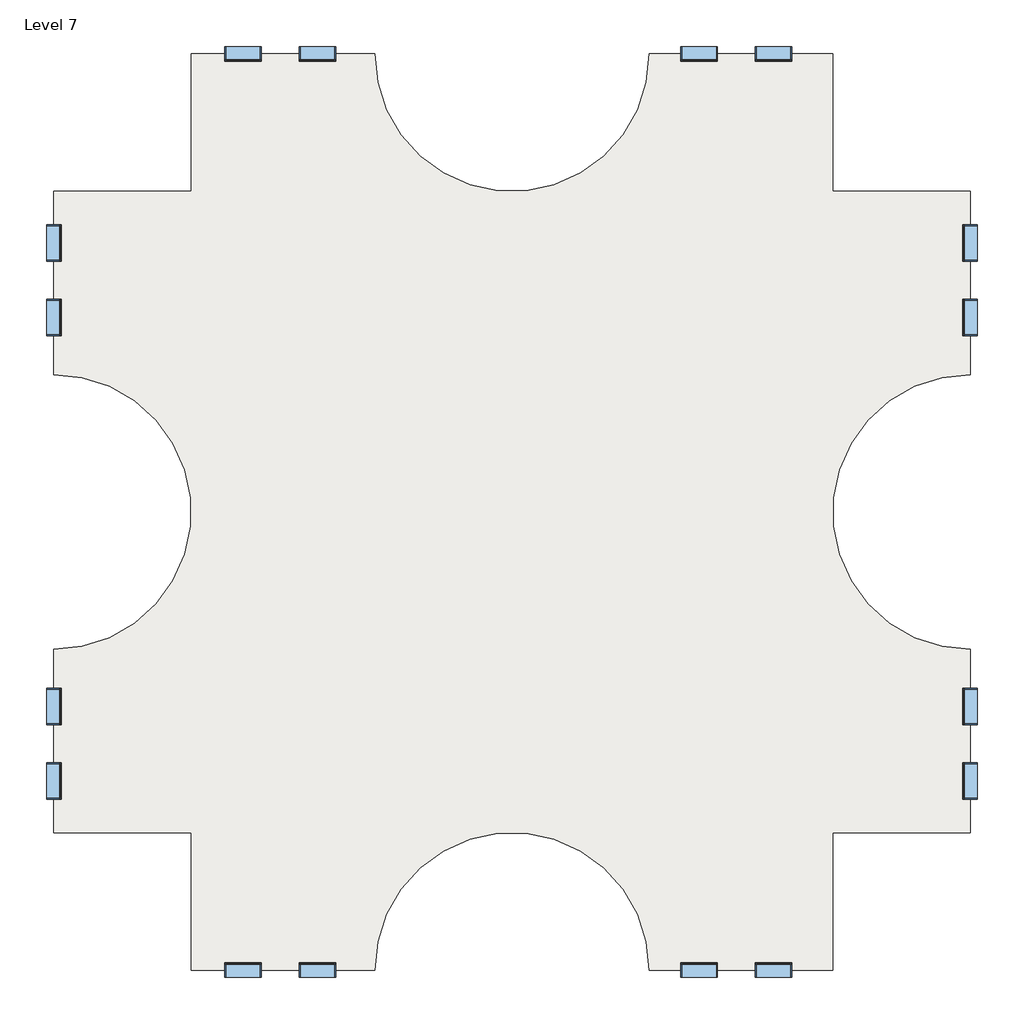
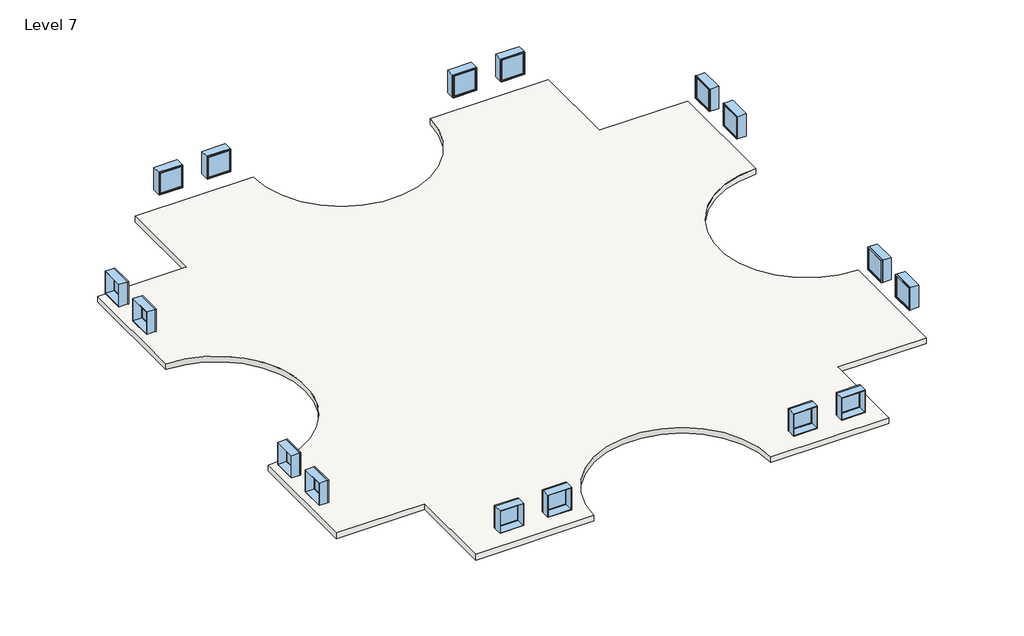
# One storey: 16 windows, 2 slabs.
"""IFC4 building model written with IfcOpenShell, lengths in millimetres."""

import ifcopenshell
import ifcopenshell.guid

model = None  # the IFC model being written
_history = None  # IfcOwnerHistory: only IFC2X3 demands one
_inside = {}  # id of a spatial element -> (the spatial element, [elements in it])
_under = {}  # id of a project, library or spatial element -> (it, [spatial elements below it])
_declared = {}  # id of a project -> (the project, [libraries it declares])
_typed = {}  # id of a type object -> (the type object, [elements of that type])
_made_of = {}  # id of a material, layer set ... -> (it, [elements and type objects made of it])


def new_model(schema):
    """Start an empty IFC model of exactly this schema.

    Asked for "IFC4X3", IfcOpenShell would pick the latest addendum, in which some entities
    have other attributes; the version numbers below select the first issue.
    IFC2X3 requires an IfcOwnerHistory on every rooted entity: one is made here for all.
    """
    global model, _history
    if schema == "IFC4X3":
        model = ifcopenshell.file(schema_version=(4, 3, 0, 0))
    else:
        model = ifcopenshell.file(schema=schema)
    _inside.clear()
    _under.clear()
    _declared.clear()
    _typed.clear()
    _made_of.clear()
    _history = None
    if model.schema == "IFC2X3":
        org = make("IfcOrganization", Name="unknown")
        user = make(
            "IfcPersonAndOrganization",
            ThePerson=make("IfcPerson", FamilyName="unknown"),
            TheOrganization=org,
        )
        app = make(
            "IfcApplication",
            ApplicationDeveloper=org,
            Version="unknown",
            ApplicationFullName="unknown",
            ApplicationIdentifier="unknown",
        )
        _history = make(
            "IfcOwnerHistory",
            OwningUser=user,
            OwningApplication=app,
            ChangeAction="ADDED",
            CreationDate=0,
        )
    return model


def make(cls, **values):
    """One entity of the class cls with the attributes given. An attribute that is None is left unset."""
    return model.create_entity(
        cls, **{name: value for name, value in values.items() if value is not None}
    )


def rooted(cls, **values):
    """An entity with a GlobalId (a new one), such as an element, a storey or a relation."""
    return make(cls, GlobalId=ifcopenshell.guid.new(), OwnerHistory=_history, **values)


def si_unit(unit_type, name, prefix=None):
    """IfcSIUnit, for example si_unit("LENGTHUNIT", "METRE", prefix="MILLI")."""
    return make("IfcSIUnit", UnitType=unit_type, Prefix=prefix, Name=name)


def assignment(units):
    """IfcUnitAssignment: the units of a project."""
    return None if units is None else make("IfcUnitAssignment", Units=units)


def point(xyz):
    """IfcCartesianPoint."""
    return None if xyz is None else make("IfcCartesianPoint", Coordinates=xyz)


def direction(xyz):
    """IfcDirection."""
    return None if xyz is None else make("IfcDirection", DirectionRatios=xyz)


def frame(location, z_axis=None, x_axis=None):
    """IfcAxis2Placement3D, a coordinate frame: its origin and axes. An axis left out is left unset."""
    return make(
        "IfcAxis2Placement3D",
        Location=point(location),
        Axis=direction(z_axis),
        RefDirection=direction(x_axis),
    )


def frame_2d(location, x_axis=None):
    """IfcAxis2Placement2D, a coordinate frame in the plane: its origin and x axis."""
    return make(
        "IfcAxis2Placement2D", Location=point(location), RefDirection=direction(x_axis)
    )


def origin():
    """The frame at (0, 0, 0) with its axes left unset."""
    return frame((0.0, 0.0, 0.0))


def place(relative_to, where):
    """IfcLocalPlacement: puts the frame where relative to a parent placement (None: the world)."""
    return make(
        "IfcLocalPlacement", PlacementRelTo=relative_to, RelativePlacement=where
    )


def context(
    kind, dimensions, precision=None, world=None, true_north=None, identifier=None
):
    """IfcGeometricRepresentationContext, for example the 3D "Model" context."""
    return make(
        "IfcGeometricRepresentationContext",
        ContextIdentifier=identifier,
        ContextType=kind,
        CoordinateSpaceDimension=dimensions,
        Precision=precision,
        WorldCoordinateSystem=world,
        TrueNorth=true_north,
    )


def project(units=None, contexts=None):
    """IfcProject with its units and contexts."""
    return rooted(
        "IfcProject",
        Name="project",
        RepresentationContexts=contexts,
        UnitsInContext=assignment(units),
    )


def spatial(cls, under=None, at=None, **own):
    """A site, building, storey or space (cls), placed at a placement, below another one or the project."""
    s = rooted(cls, ObjectPlacement=at, **own)
    if under is not None:
        _under.setdefault(under.id(), (under, []))[1].append(s)
    return s


def polyline(points):
    """IfcPolyline through the points."""
    return make("IfcPolyline", Points=[point(p) for p in points])


def circle_curve(where, radius):
    """IfcCircle in the frame where."""
    return make("IfcCircle", Position=where, Radius=radius)


def trimmed(basis, trim1, trim2, sense, master):
    """IfcTrimmedCurve: the piece of a basis curve between two trims."""
    return make(
        "IfcTrimmedCurve",
        BasisCurve=basis,
        Trim1=trim1,
        Trim2=trim2,
        SenseAgreement=sense,
        MasterRepresentation=master,
    )


def segment(curve, same_sense, transition):
    """IfcCompositeCurveSegment."""
    return make(
        "IfcCompositeCurveSegment",
        Transition=transition,
        SameSense=same_sense,
        ParentCurve=curve,
    )


def composite_curve(segments, self_intersect=None):
    """IfcCompositeCurve: segments joined end to end."""
    return make("IfcCompositeCurve", Segments=segments, SelfIntersect=self_intersect)


def outline(outer, holes=None, kind="AREA"):
    """IfcArbitraryClosedProfileDef: a profile drawn as a closed curve; with holes, ...WithVoids."""
    if holes is None:
        return make("IfcArbitraryClosedProfileDef", ProfileType=kind, OuterCurve=outer)
    return make(
        "IfcArbitraryProfileDefWithVoids",
        ProfileType=kind,
        OuterCurve=outer,
        InnerCurves=holes,
    )


def extrude(swept, where, along, depth):
    """IfcExtrudedAreaSolid: the profile swept, set in the frame where, extruded along a direction by depth."""
    return make(
        "IfcExtrudedAreaSolid",
        SweptArea=swept,
        Position=where,
        ExtrudedDirection=direction(along),
        Depth=depth,
    )


def shape(context_of_items, identifier, shape_type, items):
    """IfcShapeRepresentation: the items that make up one representation, for example the "Body"."""
    return make(
        "IfcShapeRepresentation",
        ContextOfItems=context_of_items,
        RepresentationIdentifier=identifier,
        RepresentationType=shape_type,
        Items=items,
    )


def source(mapping_origin, context_of_items, identifier, shape_type, items):
    """IfcRepresentationMap: a shape defined once, which mapped items show again and again."""
    return make(
        "IfcRepresentationMap",
        MappingOrigin=mapping_origin,
        MappedRepresentation=shape(context_of_items, identifier, shape_type, items),
    )


def transform(
    local_origin,
    x_axis=None,
    y_axis=None,
    z_axis=None,
    scale=None,
    scale2=None,
    scale3=None,
    uniform=True,
):
    """IfcCartesianTransformationOperator3D, or its non-uniform kind. x_axis, y_axis, z_axis: its Axis1, 2, 3."""
    if uniform:
        return make(
            "IfcCartesianTransformationOperator3D",
            Axis1=direction(x_axis),
            Axis2=direction(y_axis),
            LocalOrigin=point(local_origin),
            Scale=scale,
            Axis3=direction(z_axis),
        )
    return make(
        "IfcCartesianTransformationOperator3DnonUniform",
        Axis1=direction(x_axis),
        Axis2=direction(y_axis),
        LocalOrigin=point(local_origin),
        Scale=scale,
        Axis3=direction(z_axis),
        Scale2=scale2,
        Scale3=scale3,
    )


def mapped(mapping_source, mapping_target):
    """IfcMappedItem: shows the shape of a source again, moved by a transform."""
    return make(
        "IfcMappedItem", MappingSource=mapping_source, MappingTarget=mapping_target
    )


def made_of(thing, what):
    """Note that an element or type object is made of a material, layer set ...; save() writes the relation."""
    if what is not None:
        _made_of.setdefault(what.id(), (what, []))[1].append(thing)
    return thing


def element(
    cls,
    number,
    at=None,
    inside=None,
    cuts=None,
    type_object=None,
    material=None,
    context=None,
    identifier="Body",
    shape_type=None,
    held_by="IfcProductDefinitionShape",
    body=None,
    shapes=None,
    **own,
):
    """One element of the class cls, such as IfcWall. Its Tag is "e" and its number.

    at: its placement. inside: the storey or other place that contains it. cuts: it is an
    opening in that element (IfcRelVoidsElement). A single representation is given by context,
    identifier, shape_type and body (its items); several are given by shapes. held_by: the class
    of the entity that holds the representations. save() writes the other relations.
    """
    e = rooted(cls, Tag="e%d" % number, ObjectPlacement=at, **own)
    if body is not None:
        shapes = [shape(context, identifier, shape_type, body)]
    if shapes is not None:
        e.Representation = make(held_by, Representations=shapes)
    if inside is not None:
        _inside.setdefault(inside.id(), (inside, []))[1].append(e)
    if cuts is not None:
        rooted(
            "IfcRelVoidsElement", RelatingBuildingElement=cuts, RelatedOpeningElement=e
        )
    if type_object is not None:
        _typed.setdefault(type_object.id(), (type_object, []))[1].append(e)
    return made_of(e, material)


def aggregate(whole, parts):
    """IfcRelAggregates: a whole, such as a stair, and the parts it consists of."""
    return rooted("IfcRelAggregates", RelatingObject=whole, RelatedObjects=parts)


def save(model, path):
    """Write the relations noted so far, then the file.

    IfcRelAggregates (storeys below a building ...), IfcRelContainedInSpatialStructure (elements
    in a storey), IfcRelDefinesByType, IfcRelAssociatesMaterial and IfcRelDeclares: one each for
    every whole, place, type object, material and project.
    """
    for whole, parts in _under.values():
        aggregate(whole, parts)
    for where, things in _inside.values():
        rooted(
            "IfcRelContainedInSpatialStructure",
            RelatedElements=things,
            RelatingStructure=where,
        )
    for kind, things in _typed.values():
        rooted("IfcRelDefinesByType", RelatedObjects=things, RelatingType=kind)
    for what, things in _made_of.values():
        rooted("IfcRelAssociatesMaterial", RelatedObjects=things, RelatingMaterial=what)
    for by, libraries in _declared.values():
        rooted("IfcRelDeclares", RelatingContext=by, RelatedDefinitions=libraries)
    model.write(path)


def window_d0035ecf(model_context):
    return source(origin(), model_context, "Body", "SweptSolid", [
        extrude(outline(polyline([(508.0, 200.025), (-584.2, 200.025), (-584.2, 212.725), (508.0, 212.725), (508.0, 200.025)])), frame((0.0, 0.0, 977.9), z_axis=(0.0, 0.0, 1.0), x_axis=(1.0, 0.0, 0.0)), (0.0, 0.0, 1.0), 1092.2),
        extrude(outline(polyline([(2114.55, -628.65), (933.45, -628.65), (933.45, 552.45), (2114.55, 552.45), (2114.55, -628.65)]), holes=[polyline([(2070.1, -584.2), (2070.1, 508.0), (977.9, 508.0), (977.9, -584.2), (2070.1, -584.2)])]), frame((0.0, 184.15, 0.0), z_axis=(0.0, 1.0, 0.0), x_axis=(0.0, 0.0, 1.0)), (0.0, 0.0, 1.0), 44.45),
        extrude(outline(polyline([(2133.6, -647.7), (914.4, -647.7), (914.4, 571.5), (2133.6, 571.5), (2133.6, -647.7)]), holes=[polyline([(2101.85, -615.95), (2101.85, 539.75), (946.15, 539.75), (946.15, -615.95), (2101.85, -615.95)])]), frame((0.0, -247.65, 0.0), z_axis=(0.0, 1.0, 0.0), x_axis=(0.0, 0.0, 1.0)), (0.0, 0.0, 1.0), 431.8),
        extrude(outline(polyline([(2133.6, 571.5), (2133.6, -647.7), (914.4, -647.7), (914.4, 571.5), (2133.6, 571.5)]), holes=[polyline([(2114.55, 552.45), (933.45, 552.45), (933.45, -628.65), (2114.55, -628.65), (2114.55, 552.45)])]), frame((0.0, 184.15, 0.0), z_axis=(0.0, 1.0, 0.0), x_axis=(0.0, 0.0, 1.0)), (0.0, 0.0, 1.0), 63.5),
    ])


def window_d434eb62(model_context):
    return source(origin(), model_context, "Body", "SweptSolid", [
        extrude(outline(polyline([(508.0, -200.025), (508.0, -212.725), (-584.2, -212.725), (-584.2, -200.025), (508.0, -200.025)])), frame((0.0, 0.0, 977.9), z_axis=(0.0, 0.0, 1.0), x_axis=(1.0, 0.0, 0.0)), (0.0, 0.0, 1.0), 1092.2),
        extrude(outline(polyline([(2114.55, -628.65), (933.45, -628.65), (933.45, 552.45), (2114.55, 552.45), (2114.55, -628.65)]), holes=[polyline([(2070.1, -584.2), (2070.1, 508.0), (977.9, 508.0), (977.9, -584.2), (2070.1, -584.2)])]), frame((0.0, -228.6, 0.0), z_axis=(0.0, 1.0, 0.0), x_axis=(0.0, 0.0, 1.0)), (0.0, 0.0, 1.0), 44.45),
        extrude(outline(polyline([(2133.6, -647.7), (914.4, -647.7), (914.4, 571.5), (2133.6, 571.5), (2133.6, -647.7)]), holes=[polyline([(2101.85, -615.95), (2101.85, 539.75), (946.15, 539.75), (946.15, -615.95), (2101.85, -615.95)])]), frame((0.0, -184.15, 0.0), z_axis=(0.0, 1.0, 0.0), x_axis=(0.0, 0.0, 1.0)), (0.0, 0.0, 1.0), 431.8),
        extrude(outline(polyline([(2133.6, 571.5), (2133.6, -647.7), (914.4, -647.7), (914.4, 571.5), (2133.6, 571.5)]), holes=[polyline([(2114.55, 552.45), (933.45, 552.45), (933.45, -628.65), (2114.55, -628.65), (2114.55, 552.45)])]), frame((0.0, -247.65, 0.0), z_axis=(0.0, 1.0, 0.0), x_axis=(0.0, 0.0, 1.0)), (0.0, 0.0, 1.0), 63.5),
    ])


model = new_model("IFC4")

# Units and contexts
model_context = context("Model", 3, world=origin())
ifc_project = project(units=[si_unit("LENGTHUNIT", "METRE", prefix="MILLI")], contexts=[model_context])

# Site, building, storey
site = spatial("IfcSite", under=ifc_project)
building = spatial("IfcBuilding", under=site)
storey = spatial("IfcBuildingStorey", under=building, Name="Level 7", Elevation=18288.0)

# Slabs
placement = place(None, origin())
element("IfcSlab", 1, ObjectType="Generic - 12\"", at=placement, inside=storey, context=model_context, shape_type="SweptSolid", body=[
    extrude(outline(composite_curve([segment(polyline([(-7150.3629456, 4479.6634547), (-7150.3629456, 9051.6634547), (-1054.3629456, 9051.6634547)]), True, "CONTINUOUS"), segment(trimmed(circle_curve(frame_2d((3517.6370544, 9051.6634547)), 4572.0), [point((-1054.3629456, 9051.6634547))], [point((8089.6370544, 9051.6634547))], True, "CARTESIAN"), True, "CONTINUOUS"), segment(polyline([(8089.6370544, 9051.6634547), (14185.6370544, 9051.6634547), (14185.6370544, 4479.6634547), (18757.6370544, 4479.6634547), (18757.6370544, -1616.3365453)]), True, "CONTINUOUS"), segment(trimmed(circle_curve(frame_2d((18757.6370544, -6188.3365453)), 4572.0), [point((18757.6370544, -1616.3365453))], [point((18757.6370544, -10760.3365453))], True, "CARTESIAN"), True, "CONTINUOUS"), segment(polyline([(18757.6370544, -10760.3365453), (18757.6370544, -16856.3365453), (14185.6370544, -16856.3365453), (14185.6370544, -21428.3365453), (8089.6370544, -21428.3365453)]), True, "CONTINUOUS"), segment(trimmed(circle_curve(frame_2d((3517.6370544, -21428.3365453)), 4572.0), [point((8089.6370544, -21428.3365453))], [point((-1054.3629456, -21428.3365453))], True, "CARTESIAN"), True, "CONTINUOUS"), segment(polyline([(-1054.3629456, -21428.3365453), (-7150.3629456, -21428.3365453), (-7150.3629456, -16856.3365453), (-11722.3629456, -16856.3365453), (-11722.3629456, -10760.3365453)]), True, "CONTINUOUS"), segment(trimmed(circle_curve(frame_2d((-11722.3629456, -6188.3365453)), 4572.0), [point((-11722.3629456, -10760.3365453))], [point((-11722.3629456, -1616.3365453))], True, "CARTESIAN"), True, "CONTINUOUS"), segment(polyline([(-11722.3629456, -1616.3365453), (-11722.3629456, 4479.6634547), (-7150.3629456, 4479.6634547)]), True, "CONTINUOUS")], self_intersect=False)), frame((0.0, 0.0, 17983.2), z_axis=(0.0, 0.0, 1.0), x_axis=(1.0, 0.0, 0.0)), (0.0, 0.0, 1.0), 304.8),
])
element("IfcSlab", 2, ObjectType="Generic - 12\"", at=placement, inside=storey, context=model_context, shape_type="SweptSolid", body=[
    extrude(outline(composite_curve([segment(polyline([(-7150.3629456, 4479.6634547), (-7150.3629456, 9051.6634547), (-1054.3629456, 9051.6634547)]), True, "CONTINUOUS"), segment(trimmed(circle_curve(frame_2d((3517.6370544, 9051.6634547)), 4572.0), [point((-1054.3629456, 9051.6634547))], [point((8089.6370544, 9051.6634547))], True, "CARTESIAN"), True, "CONTINUOUS"), segment(polyline([(8089.6370544, 9051.6634547), (14185.6370544, 9051.6634547), (14185.6370544, 4479.6634547), (18757.6370544, 4479.6634547), (18757.6370544, -1616.3365453)]), True, "CONTINUOUS"), segment(trimmed(circle_curve(frame_2d((18757.6370544, -6188.3365453)), 4572.0), [point((18757.6370544, -1616.3365453))], [point((18757.6370544, -10760.3365453))], True, "CARTESIAN"), True, "CONTINUOUS"), segment(polyline([(18757.6370544, -10760.3365453), (18757.6370544, -16856.3365453), (14185.6370544, -16856.3365453), (14185.6370544, -21428.3365453), (8089.6370544, -21428.3365453)]), True, "CONTINUOUS"), segment(trimmed(circle_curve(frame_2d((3517.6370544, -21428.3365453)), 4572.0), [point((8089.6370544, -21428.3365453))], [point((-1054.3629456, -21428.3365453))], True, "CARTESIAN"), True, "CONTINUOUS"), segment(polyline([(-1054.3629456, -21428.3365453), (-7150.3629456, -21428.3365453), (-7150.3629456, -16856.3365453), (-11722.3629456, -16856.3365453), (-11722.3629456, -10760.3365453)]), True, "CONTINUOUS"), segment(trimmed(circle_curve(frame_2d((-11722.3629456, -6188.3365453)), 4572.0), [point((-11722.3629456, -10760.3365453))], [point((-11722.3629456, -1616.3365453))], True, "CARTESIAN"), True, "CONTINUOUS"), segment(polyline([(-11722.3629456, -1616.3365453), (-11722.3629456, 4479.6634547), (-7150.3629456, 4479.6634547)]), True, "CONTINUOUS")], self_intersect=False)), frame((0.0, 0.0, 17983.2), z_axis=(0.0, 0.0, 1.0), x_axis=(1.0, 0.0, 0.0)), (0.0, 0.0, 1.0), 304.8),
])

# Windows
window_shape = window_d0035ecf(model_context)
element("IfcWindow", 3, ObjectType="Fixed : 48\" x 48\"", at=placement, inside=storey, context=model_context, shape_type="MappedRepresentation", body=[
    mapped(window_shape, transform((-11719.1879456, 247.3884547, 18288.0), x_axis=(0.0, -1.0, 0.0), y_axis=(1.0, 0.0, 0.0), z_axis=(0.0, 0.0, 1.0))),
])
element("IfcWindow", 4, ObjectType="Fixed : 48\" x 48\"", at=placement, inside=storey, context=model_context, shape_type="MappedRepresentation", body=[
    mapped(window_shape, transform((-5469.1993281, 9048.4884547, 18288.0), x_axis=(-1.0, 0.0, 0.0), y_axis=(0.0, -1.0, 0.0), z_axis=(0.0, 0.0, 1.0))),
])
element("IfcWindow", 5, ObjectType="Fixed : 48\" x 48\"", at=placement, inside=storey, context=model_context, shape_type="MappedRepresentation", body=[
    mapped(window_shape, transform((-11719.1879456, -15175.1729277, 18288.0), x_axis=(0.0, -1.0, 0.0), y_axis=(1.0, 0.0, 0.0), z_axis=(0.0, 0.0, 1.0))),
])
element("IfcWindow", 6, ObjectType="Fixed : 48\" x 48\"", at=placement, inside=storey, context=model_context, shape_type="MappedRepresentation", body=[
    mapped(window_shape, transform((-2918.0879456, -21425.1615453, 18288.0), x_axis=(1.0, 0.0, 0.0), y_axis=(0.0, 1.0, 0.0), z_axis=(0.0, 0.0, 1.0))),
])
element("IfcWindow", 7, ObjectType="Fixed : 48\" x 48\"", at=placement, inside=storey, context=model_context, shape_type="MappedRepresentation", body=[
    mapped(window_shape, transform((18754.4620544, 2798.4998372, 18288.0), x_axis=(0.0, 1.0, 0.0), y_axis=(-1.0, 0.0, 0.0), z_axis=(0.0, 0.0, 1.0))),
])
element("IfcWindow", 8, ObjectType="Fixed : 48\" x 48\"", at=placement, inside=storey, context=model_context, shape_type="MappedRepresentation", body=[
    mapped(window_shape, transform((9705.7120544, 9048.4884547, 18288.0), x_axis=(-1.0, 0.0, 0.0), y_axis=(0.0, -1.0, 0.0), z_axis=(0.0, 0.0, 1.0))),
])
element("IfcWindow", 9, ObjectType="Fixed : 48\" x 48\"", at=placement, inside=storey, context=model_context, shape_type="MappedRepresentation", body=[
    mapped(window_shape, transform((18754.4620544, -12624.0615453, 18288.0), x_axis=(0.0, 1.0, 0.0), y_axis=(-1.0, 0.0, 0.0), z_axis=(0.0, 0.0, 1.0))),
])
element("IfcWindow", 10, ObjectType="Fixed : 48\" x 48\"", at=placement, inside=storey, context=model_context, shape_type="MappedRepresentation", body=[
    mapped(window_shape, transform((12256.8234368, -21425.1615453, 18288.0), x_axis=(1.0, 0.0, 0.0), y_axis=(0.0, 1.0, 0.0), z_axis=(0.0, 0.0, 1.0))),
])
window_2_shape = window_d434eb62(model_context)
element("IfcWindow", 11, ObjectType="Fixed : 48\" x 48\"", at=placement, inside=storey, context=model_context, shape_type="MappedRepresentation", body=[
    mapped(window_2_shape, transform((-11719.1879456, 2798.4998372, 18288.0), x_axis=(0.0, 1.0, 0.0), y_axis=(-1.0, 0.0, 0.0), z_axis=(0.0, 0.0, 1.0))),
])
element("IfcWindow", 12, ObjectType="Fixed : 48\" x 48\"", at=placement, inside=storey, context=model_context, shape_type="MappedRepresentation", body=[
    mapped(window_2_shape, transform((-2918.0879456, 9048.4884547, 18288.0), x_axis=(1.0, 0.0, 0.0), y_axis=(0.0, 1.0, 0.0), z_axis=(0.0, 0.0, 1.0))),
])
element("IfcWindow", 13, ObjectType="Fixed : 48\" x 48\"", at=placement, inside=storey, context=model_context, shape_type="MappedRepresentation", body=[
    mapped(window_2_shape, transform((-11719.1879456, -12624.0615453, 18288.0), x_axis=(0.0, 1.0, 0.0), y_axis=(-1.0, 0.0, 0.0), z_axis=(0.0, 0.0, 1.0))),
])
element("IfcWindow", 14, ObjectType="Fixed : 48\" x 48\"", at=placement, inside=storey, context=model_context, shape_type="MappedRepresentation", body=[
    mapped(window_2_shape, transform((-5469.1993281, -21425.1615453, 18288.0), x_axis=(-1.0, 0.0, 0.0), y_axis=(0.0, -1.0, 0.0), z_axis=(0.0, 0.0, 1.0))),
])
element("IfcWindow", 15, ObjectType="Fixed : 48\" x 48\"", at=placement, inside=storey, context=model_context, shape_type="MappedRepresentation", body=[
    mapped(window_2_shape, transform((18754.4620544, 247.3884547, 18288.0), x_axis=(0.0, -1.0, 0.0), y_axis=(1.0, 0.0, 0.0), z_axis=(0.0, 0.0, 1.0))),
])
element("IfcWindow", 16, ObjectType="Fixed : 48\" x 48\"", at=placement, inside=storey, context=model_context, shape_type="MappedRepresentation", body=[
    mapped(window_2_shape, transform((12256.8234368, 9048.4884547, 18288.0), x_axis=(1.0, 0.0, 0.0), y_axis=(0.0, 1.0, 0.0), z_axis=(0.0, 0.0, 1.0))),
])
element("IfcWindow", 17, ObjectType="Fixed : 48\" x 48\"", at=placement, inside=storey, context=model_context, shape_type="MappedRepresentation", body=[
    mapped(window_2_shape, transform((18754.4620544, -15175.1729277, 18288.0), x_axis=(0.0, -1.0, 0.0), y_axis=(1.0, 0.0, 0.0), z_axis=(0.0, 0.0, 1.0))),
])
element("IfcWindow", 18, ObjectType="Fixed : 48\" x 48\"", at=placement, inside=storey, context=model_context, shape_type="MappedRepresentation", body=[
    mapped(window_2_shape, transform((9705.7120544, -21425.1615453, 18288.0), x_axis=(-1.0, 0.0, 0.0), y_axis=(0.0, -1.0, 0.0), z_axis=(0.0, 0.0, 1.0))),
])

save(model, "model.ifc")
